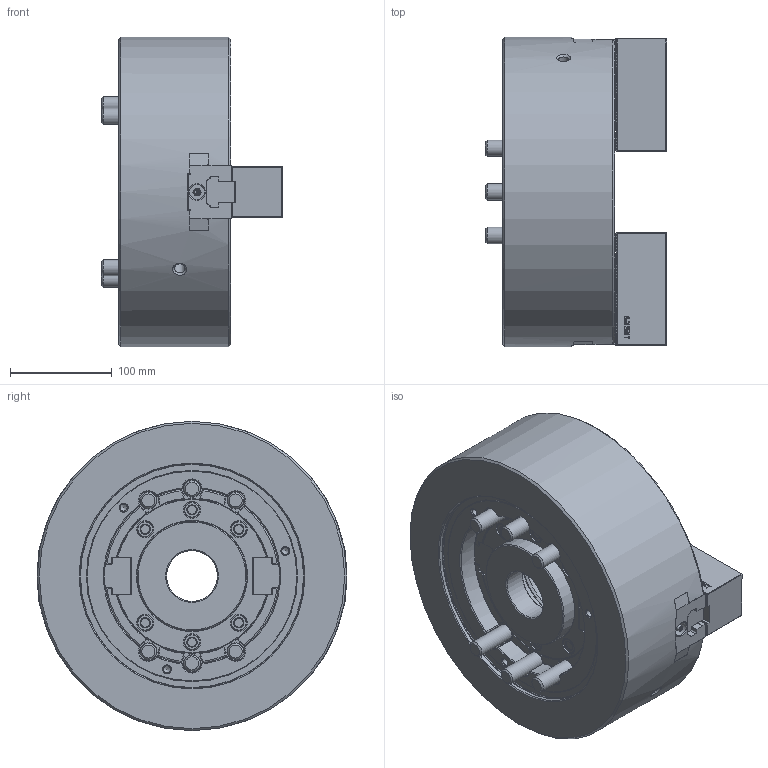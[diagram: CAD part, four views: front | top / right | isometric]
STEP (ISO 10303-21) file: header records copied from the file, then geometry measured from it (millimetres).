
FILE_DESCRIPTION (( 'STEP AP214' ), '1' );
FILE_NAME ('DT1_BT212_OUTSIDE_VIEW_HUL.STEP', '2024-05-09T02:42:37', ( '' ), ( '' ), 'SwSTEP 2.0', 'SolidWorks 2022', '' );
FILE_SCHEMA (( 'AUTOMOTIVE_DESIGN' ));
Length unit declared in the file: millimetre
Products named in the file (9): DT1_BT212_DRAWNUT^DT1-BT212_ﾃﾞﾌｫﾙﾄ; DT1_BT212_COVER^DT1-BT212_ﾃﾞﾌｫﾙﾄ; DT1_BT212_TNUT^DT1-BT212_ﾃﾞﾌｫﾙﾄ; DT1_BT212_BASE^DT1-BT212_ﾃﾞﾌｫﾙﾄ; DT1_BT212_M16x110^DT1-BT212_ﾃﾞﾌｫﾙﾄ; DT1_BT212_M6x10^DT1-BT212_ﾃﾞﾌｫﾙﾄ; DT1_BT212_OUTSIDE_VIEW_HUL; DT1_BT212_SOFTJAW^DT1-BT212_ﾃﾞﾌｫﾙﾄ; DT1_BT212_M16x40^DT1-BT212_ﾃﾞﾌｫﾙﾄ
Assembly tree (21 placements, depth 2):
  DT1_BT212_OUTSIDE_VIEW_HUL
    DT1_BT212_SOFTJAW^DT1-BT212_ﾃﾞﾌｫﾙﾄ  x2
    DT1_BT212_TNUT^DT1-BT212_ﾃﾞﾌｫﾙﾄ  x2
    DT1_BT212_DRAWNUT^DT1-BT212_ﾃﾞﾌｫﾙﾄ
    DT1_BT212_COVER^DT1-BT212_ﾃﾞﾌｫﾙﾄ
    DT1_BT212_BASE^DT1-BT212_ﾃﾞﾌｫﾙﾄ
    DT1_BT212_M6x10^DT1-BT212_ﾃﾞﾌｫﾙﾄ  x4
    DT1_BT212_M16x40^DT1-BT212_ﾃﾞﾌｫﾙﾄ  x4
    DT1_BT212_M16x110^DT1-BT212_ﾃﾞﾌｫﾙﾄ  x6
Bounding box: 178 x 304 x 304 mm (x, y, z)
Volume: 7340571.4 mm3; surface area: 600219.2 mm2
Topology: 21 solids, 21 shells, 3955 faces, 11251 edges, 7416 vertices
Faces by surface type: plane 2625, cylinder 798, cone 272, bspline 213, torus 45, sphere 2
Full cylindrical faces by diameter (mm): 2 x2, 5 x4, 6 x4, 6.6 x4, 6.8 x3, 10.2 x2, 10.5 x4, 11 x4, 14 x4, 15 x2, 16 x10, 17 x16, 24.33 x10, 25 x10, 50 x1, 91 x2, 96 x2, 101 x1, 108 x2, 220 x1, 220.8 x1, 304 x1
Entity records: 105437 total; most frequent: CARTESIAN_POINT 31181, ORIENTED_EDGE 16850, DIRECTION 13116, EDGE_CURVE 8425, VECTOR 5926, LINE 5926, VERTEX_POINT 5633, AXIS2_PLACEMENT_3D 3595
